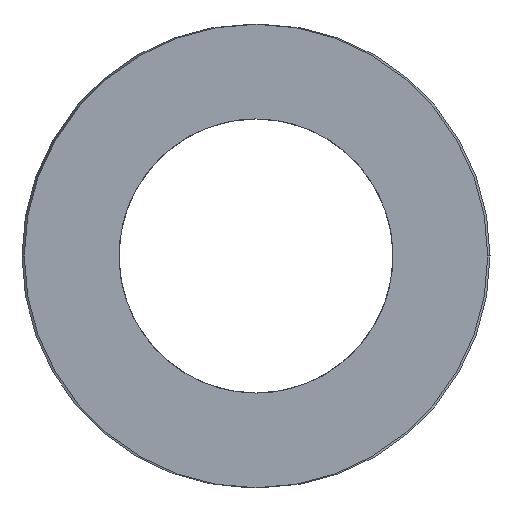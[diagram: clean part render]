
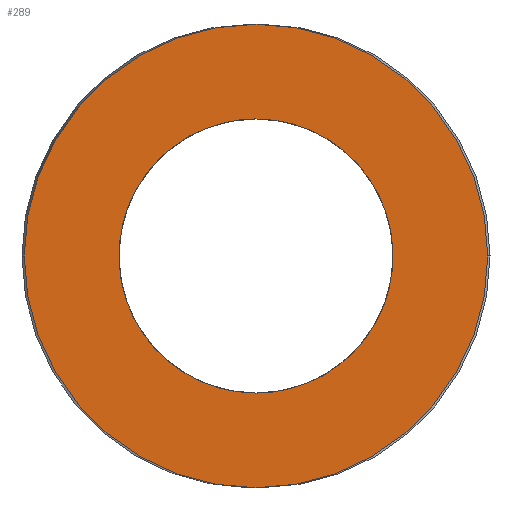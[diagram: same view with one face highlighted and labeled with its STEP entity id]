
A CAD part, left-side view. The second image highlights one B-rep face of the part: STEP entity #289.
In plain terms, the highlighted planar face has unit normal (-1, 0, 0).
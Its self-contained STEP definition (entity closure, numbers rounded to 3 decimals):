
#63=CARTESIAN_POINT('Vertex',(0.,4.65,0.)) ;
#77=CARTESIAN_POINT('Vertex',(0.,-4.65,0.)) ;
#80=CARTESIAN_POINT('Axis2P3D Location',(0.,0.,0.)) ;
#97=CARTESIAN_POINT('Axis2P3D Location',(0.,0.,0.)) ;
#226=CARTESIAN_POINT('Axis2P3D Location',(0.,2.325,0.)) ;
#236=CARTESIAN_POINT('Control Point',(0.,0.,-2.75)) ;
#237=CARTESIAN_POINT('Control Point',(0.,0.325,-2.75)) ;
#238=CARTESIAN_POINT('Control Point',(0.,0.65,-2.702)) ;
#239=CARTESIAN_POINT('Control Point',(0.,0.965,-2.606)) ;
#240=CARTESIAN_POINT('Control Point',(0.,1.559,-2.324)) ;
#241=CARTESIAN_POINT('Control Point',(0.,2.045,-1.882)) ;
#242=CARTESIAN_POINT('Control Point',(0.,2.253,-1.626)) ;
#243=CARTESIAN_POINT('Control Point',(0.,2.589,-1.061)) ;
#244=CARTESIAN_POINT('Control Point',(0.,2.747,-0.424)) ;
#245=CARTESIAN_POINT('Control Point',(0.,2.777,-0.095)) ;
#246=CARTESIAN_POINT('Control Point',(0.,2.741,0.561)) ;
#247=CARTESIAN_POINT('Control Point',(0.,2.517,1.178)) ;
#248=CARTESIAN_POINT('Control Point',(0.,2.36,1.468)) ;
#249=CARTESIAN_POINT('Control Point',(0.,1.964,1.993)) ;
#250=CARTESIAN_POINT('Control Point',(0.,1.434,2.38)) ;
#251=CARTESIAN_POINT('Control Point',(0.,1.142,2.534)) ;
#252=CARTESIAN_POINT('Control Point',(0.,0.733,2.675)) ;
#253=CARTESIAN_POINT('Control Point',(0.,0.309,2.735)) ;
#254=CARTESIAN_POINT('Control Point',(0.,0.206,2.745)) ;
#255=CARTESIAN_POINT('Control Point',(0.,0.103,2.75)) ;
#256=CARTESIAN_POINT('Control Point',(0.,0.,2.75)) ;
#257=CARTESIAN_POINT('Vertex',(0.,0.,-2.75)) ;
#259=CARTESIAN_POINT('Vertex',(0.,0.,2.75)) ;
#263=CARTESIAN_POINT('Control Point',(0.,0.,2.75)) ;
#264=CARTESIAN_POINT('Control Point',(0.,-0.325,2.75)) ;
#265=CARTESIAN_POINT('Control Point',(0.,-0.65,2.702)) ;
#266=CARTESIAN_POINT('Control Point',(0.,-0.965,2.606)) ;
#267=CARTESIAN_POINT('Control Point',(0.,-1.559,2.324)) ;
#268=CARTESIAN_POINT('Control Point',(0.,-2.045,1.882)) ;
#269=CARTESIAN_POINT('Control Point',(0.,-2.253,1.626)) ;
#270=CARTESIAN_POINT('Control Point',(0.,-2.589,1.061)) ;
#271=CARTESIAN_POINT('Control Point',(0.,-2.747,0.424)) ;
#272=CARTESIAN_POINT('Control Point',(0.,-2.777,0.095)) ;
#273=CARTESIAN_POINT('Control Point',(0.,-2.741,-0.561)) ;
#274=CARTESIAN_POINT('Control Point',(0.,-2.517,-1.178)) ;
#275=CARTESIAN_POINT('Control Point',(0.,-2.36,-1.468)) ;
#276=CARTESIAN_POINT('Control Point',(0.,-1.964,-1.993)) ;
#277=CARTESIAN_POINT('Control Point',(0.,-1.434,-2.38)) ;
#278=CARTESIAN_POINT('Control Point',(0.,-1.142,-2.534)) ;
#279=CARTESIAN_POINT('Control Point',(0.,-0.733,-2.675)) ;
#280=CARTESIAN_POINT('Control Point',(0.,-0.309,-2.735)) ;
#281=CARTESIAN_POINT('Control Point',(0.,-0.206,-2.745)) ;
#282=CARTESIAN_POINT('Control Point',(0.,-0.103,-2.75)) ;
#283=CARTESIAN_POINT('Control Point',(0.,0.,-2.75)) ;
#81=DIRECTION('Axis2P3D Direction',(1.,-0.,0.)) ;
#98=DIRECTION('Axis2P3D Direction',(1.,-0.,0.)) ;
#227=DIRECTION('Axis2P3D Direction',(-1.,0.,0.)) ;
#228=DIRECTION('Axis2P3D XDirection',(0.,1.,0.)) ;
#82=AXIS2_PLACEMENT_3D('Circle Axis2P3D',#80,#81,$) ;
#99=AXIS2_PLACEMENT_3D('Circle Axis2P3D',#97,#98,$) ;
#229=AXIS2_PLACEMENT_3D('Plane Axis2P3D',#226,#227,#228) ;
#232=ORIENTED_EDGE('',*,*,#84,.T.) ;
#233=ORIENTED_EDGE('',*,*,#101,.T.) ;
#286=ORIENTED_EDGE('',*,*,#261,.T.) ;
#287=ORIENTED_EDGE('',*,*,#284,.T.) ;
#288=FACE_BOUND('',#285,.T.) ;
#289=ADVANCED_FACE('392-B10-051',(#234,#288),#230,.T.) ;
#235=B_SPLINE_CURVE_WITH_KNOTS('',5,(#236,#237,#238,#239,#240,#241,#242,#243,#244,#245,#246,#247,#248,#249,#250,#251,#252,#253,#254,#255,#256),.UNSPECIFIED.,.F.,.U.,(6,3,3,3,3,3,6),(0.,2.298,4.596,6.893,9.191,11.489,12.217),.UNSPECIFIED.) ;
#262=B_SPLINE_CURVE_WITH_KNOTS('',5,(#263,#264,#265,#266,#267,#268,#269,#270,#271,#272,#273,#274,#275,#276,#277,#278,#279,#280,#281,#282,#283),.UNSPECIFIED.,.F.,.U.,(6,3,3,3,3,3,6),(0.,2.298,4.596,6.893,9.191,11.489,12.217),.UNSPECIFIED.) ;
#83=CIRCLE('generated circle',#82,4.65) ;
#100=CIRCLE('generated circle',#99,4.65) ;
#84=EDGE_CURVE('',#64,#78,#83,.F.) ;
#101=EDGE_CURVE('',#78,#64,#100,.F.) ;
#261=EDGE_CURVE('',#258,#260,#235,.T.) ;
#284=EDGE_CURVE('',#260,#258,#262,.T.) ;
#231=EDGE_LOOP('',(#232,#233)) ;
#285=EDGE_LOOP('',(#286,#287)) ;
#234=FACE_OUTER_BOUND('',#231,.T.) ;
#230=PLANE('Plane',#229) ;
#64=VERTEX_POINT('',#63) ;
#78=VERTEX_POINT('',#77) ;
#258=VERTEX_POINT('',#257) ;
#260=VERTEX_POINT('',#259) ;
